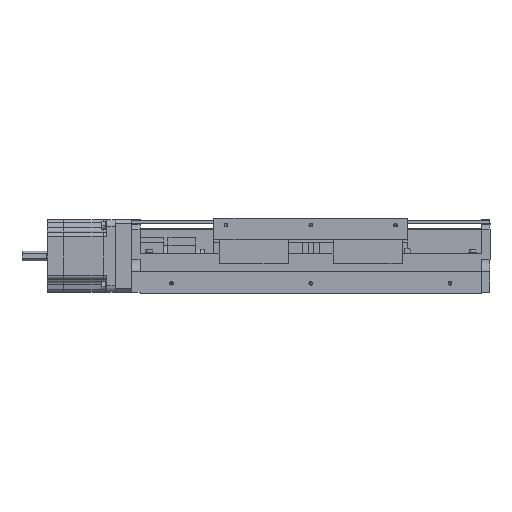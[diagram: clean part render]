
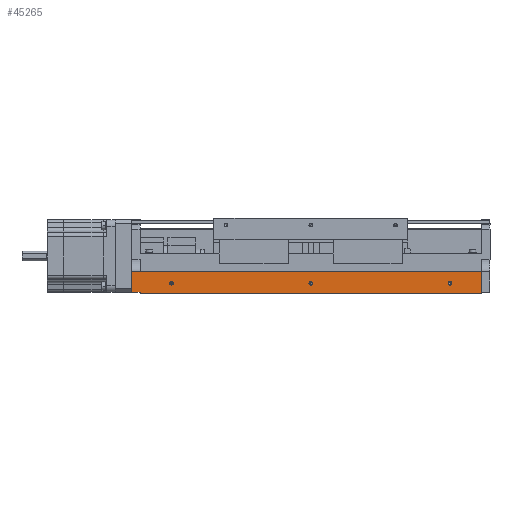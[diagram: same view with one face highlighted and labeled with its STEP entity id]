
A CAD part, front view. The second image highlights one B-rep face of the part: STEP entity #45265.
In plain terms, the highlighted planar face has unit normal (0, -1, 0).
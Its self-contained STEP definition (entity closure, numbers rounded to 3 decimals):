
#618 = EDGE_CURVE ( 'NONE', #62793, #14108, #73816, .T. ) ;
#635 = EDGE_CURVE ( 'NONE', #55769, #14879, #14548, .T. ) ;
#767 = ORIENTED_EDGE ( 'NONE', *, *, #72655, .F. ) ;
#1099 = CARTESIAN_POINT ( 'NONE',  ( 309.099, 117.074, 83. ) ) ;
#1272 = EDGE_CURVE ( 'NONE', #23123, #37660, #20956, .T. ) ;
#1435 = ORIENTED_EDGE ( 'NONE', *, *, #15556, .F. ) ;
#1518 = VERTEX_POINT ( 'NONE', #17436 ) ;
#3348 = VECTOR ( 'NONE', #51131, 1000. ) ;
#3594 = EDGE_CURVE ( 'NONE', #14879, #55769, #74278, .T. ) ;
#3691 = LINE ( 'NONE', #31567, #10242 ) ;
#3930 = CARTESIAN_POINT ( 'NONE',  ( 309.099, 117.074, 83. ) ) ;
#4872 = DIRECTION ( 'NONE',  ( 0., -1., 0. ) ) ;
#5300 = CARTESIAN_POINT ( 'NONE',  ( 309.099, 117.074, 66. ) ) ;
#5737 = ORIENTED_EDGE ( 'NONE', *, *, #15269, .T. ) ;
#6096 = DIRECTION ( 'NONE',  ( 0., 0., -1. ) ) ;
#6927 = DIRECTION ( 'NONE',  ( 0., -1., 0. ) ) ;
#6972 = ORIENTED_EDGE ( 'NONE', *, *, #618, .T. ) ;
#7595 = ORIENTED_EDGE ( 'NONE', *, *, #14692, .F. ) ;
#8270 = AXIS2_PLACEMENT_3D ( 'NONE', #29177, #53253, #23771 ) ;
#8528 = ORIENTED_EDGE ( 'NONE', *, *, #3594, .F. ) ;
#8542 = DIRECTION ( 'NONE',  ( 0., 0., -1. ) ) ;
#9443 = VECTOR ( 'NONE', #15582, 1000. ) ;
#10242 = VECTOR ( 'NONE', #8542, 1000. ) ;
#10573 = CIRCLE ( 'NONE', #54195, 1.5 ) ;
#11043 = VERTEX_POINT ( 'NONE', #56373 ) ;
#12554 = VERTEX_POINT ( 'NONE', #14595 ) ;
#12856 = CARTESIAN_POINT ( 'NONE',  ( 450.099, 117.074, 73.5 ) ) ;
#13401 = EDGE_CURVE ( 'NONE', #41292, #62793, #67020, .T. ) ;
#13482 = DIRECTION ( 'NONE',  ( 0., -1., 0. ) ) ;
#13666 = VECTOR ( 'NONE', #31062, 1000. ) ;
#14108 = VERTEX_POINT ( 'NONE', #5300 ) ;
#14548 = CIRCLE ( 'NONE', #39301, 1.5 ) ;
#14595 = CARTESIAN_POINT ( 'NONE',  ( 335.099, 117.074, 75. ) ) ;
#14692 = EDGE_CURVE ( 'NONE', #1518, #24840, #10573, .T. ) ;
#14879 = VERTEX_POINT ( 'NONE', #49610 ) ;
#15269 = EDGE_CURVE ( 'NONE', #14108, #23123, #33583, .T. ) ;
#15556 = EDGE_CURVE ( 'NONE', #41292, #11043, #22441, .T. ) ;
#15582 = DIRECTION ( 'NONE',  ( 1., 0., 0. ) ) ;
#17436 = CARTESIAN_POINT ( 'NONE',  ( 450.099, 117.074, 72. ) ) ;
#17830 = CARTESIAN_POINT ( 'NONE',  ( 450.099, 117.074, 75. ) ) ;
#19070 = ORIENTED_EDGE ( 'NONE', *, *, #635, .F. ) ;
#20067 = FACE_BOUND ( 'NONE', #23449, .T. ) ;
#20956 = LINE ( 'NONE', #33751, #3348 ) ;
#22441 = LINE ( 'NONE', #3930, #9443 ) ;
#23123 = VERTEX_POINT ( 'NONE', #59232 ) ;
#23449 = EDGE_LOOP ( 'NONE', ( #8528, #19070 ) ) ;
#23695 = CARTESIAN_POINT ( 'NONE',  ( 335.099, 117.074, 73.5 ) ) ;
#23771 = DIRECTION ( 'NONE',  ( 0., 0., -1. ) ) ;
#24840 = VERTEX_POINT ( 'NONE', #17830 ) ;
#25316 = EDGE_LOOP ( 'NONE', ( #47940, #74122 ) ) ;
#28115 = CIRCLE ( 'NONE', #39127, 1.5 ) ;
#28715 = ORIENTED_EDGE ( 'NONE', *, *, #1272, .T. ) ;
#29177 = CARTESIAN_POINT ( 'NONE',  ( 335.099, 117.074, 73.5 ) ) ;
#29364 = DIRECTION ( 'NONE',  ( 0., 0., -1. ) ) ;
#29632 = DIRECTION ( 'NONE',  ( 0., -1., 0. ) ) ;
#29640 = DIRECTION ( 'NONE',  ( 0., -1., 0. ) ) ;
#31062 = DIRECTION ( 'NONE',  ( 1., 0., 0. ) ) ;
#31567 = CARTESIAN_POINT ( 'NONE',  ( 591.099, 117.074, 83. ) ) ;
#33163 = EDGE_CURVE ( 'NONE', #73873, #12554, #58092, .T. ) ;
#33578 = CARTESIAN_POINT ( 'NONE',  ( 450.099, 117.074, 73.5 ) ) ;
#33583 = LINE ( 'NONE', #1099, #47446 ) ;
#33751 = CARTESIAN_POINT ( 'NONE',  ( 309.099, 117.074, 65. ) ) ;
#37660 = VERTEX_POINT ( 'NONE', #43235 ) ;
#39127 = AXIS2_PLACEMENT_3D ( 'NONE', #33578, #4872, #45270 ) ;
#39301 = AXIS2_PLACEMENT_3D ( 'NONE', #66264, #13482, #54641 ) ;
#39360 = PLANE ( 'NONE',  #71398 ) ;
#39670 = CARTESIAN_POINT ( 'NONE',  ( 335.099, 117.074, 72. ) ) ;
#41292 = VERTEX_POINT ( 'NONE', #63953 ) ;
#41401 = FACE_OUTER_BOUND ( 'NONE', #64509, .T. ) ;
#41562 = CARTESIAN_POINT ( 'NONE',  ( 302.099, 117.074, 83. ) ) ;
#41588 = EDGE_CURVE ( 'NONE', #11043, #37660, #3691, .T. ) ;
#43099 = AXIS2_PLACEMENT_3D ( 'NONE', #23695, #29640, #53181 ) ;
#43235 = CARTESIAN_POINT ( 'NONE',  ( 591.099, 117.074, 65. ) ) ;
#45265 = ADVANCED_FACE ( 'NONE', ( #20067, #53409, #70110, #41401 ), #39360, .T. ) ;
#45270 = DIRECTION ( 'NONE',  ( 0., 0., -1. ) ) ;
#45294 = ORIENTED_EDGE ( 'NONE', *, *, #13401, .T. ) ;
#45792 = DIRECTION ( 'NONE',  ( 0., -1., 0. ) ) ;
#47446 = VECTOR ( 'NONE', #59830, 1000. ) ;
#47940 = ORIENTED_EDGE ( 'NONE', *, *, #33163, .F. ) ;
#49259 = CARTESIAN_POINT ( 'NONE',  ( 565.099, 117.074, 75. ) ) ;
#49610 = CARTESIAN_POINT ( 'NONE',  ( 565.099, 117.074, 72. ) ) ;
#51131 = DIRECTION ( 'NONE',  ( 1., 0., 0. ) ) ;
#51559 = EDGE_CURVE ( 'NONE', #12554, #73873, #64156, .T. ) ;
#53181 = DIRECTION ( 'NONE',  ( 0., 0., -1. ) ) ;
#53253 = DIRECTION ( 'NONE',  ( 0., -1., 0. ) ) ;
#53409 = FACE_BOUND ( 'NONE', #54343, .T. ) ;
#54195 = AXIS2_PLACEMENT_3D ( 'NONE', #12856, #6927, #54762 ) ;
#54343 = EDGE_LOOP ( 'NONE', ( #7595, #767 ) ) ;
#54374 = CARTESIAN_POINT ( 'NONE',  ( 305.599, 117.074, 66. ) ) ;
#54641 = DIRECTION ( 'NONE',  ( 0., 0., -1. ) ) ;
#54762 = DIRECTION ( 'NONE',  ( 0., 0., -1. ) ) ;
#55769 = VERTEX_POINT ( 'NONE', #49259 ) ;
#56373 = CARTESIAN_POINT ( 'NONE',  ( 591.099, 117.074, 83. ) ) ;
#56722 = AXIS2_PLACEMENT_3D ( 'NONE', #58831, #29632, #29364 ) ;
#58092 = CIRCLE ( 'NONE', #8270, 1.5 ) ;
#58190 = DIRECTION ( 'NONE',  ( -1., 0., 0. ) ) ;
#58831 = CARTESIAN_POINT ( 'NONE',  ( 565.099, 117.074, 73.5 ) ) ;
#59156 = ORIENTED_EDGE ( 'NONE', *, *, #41588, .F. ) ;
#59232 = CARTESIAN_POINT ( 'NONE',  ( 309.099, 117.074, 65. ) ) ;
#59830 = DIRECTION ( 'NONE',  ( 0., 0., -1. ) ) ;
#62793 = VERTEX_POINT ( 'NONE', #73345 ) ;
#63953 = CARTESIAN_POINT ( 'NONE',  ( 302.099, 117.074, 83. ) ) ;
#64156 = CIRCLE ( 'NONE', #43099, 1.5 ) ;
#64509 = EDGE_LOOP ( 'NONE', ( #59156, #1435, #45294, #6972, #5737, #28715 ) ) ;
#66264 = CARTESIAN_POINT ( 'NONE',  ( 565.099, 117.074, 73.5 ) ) ;
#67020 = LINE ( 'NONE', #41562, #69854 ) ;
#69854 = VECTOR ( 'NONE', #6096, 1000. ) ;
#70110 = FACE_BOUND ( 'NONE', #25316, .T. ) ;
#71398 = AXIS2_PLACEMENT_3D ( 'NONE', #75298, #45792, #58190 ) ;
#72655 = EDGE_CURVE ( 'NONE', #24840, #1518, #28115, .T. ) ;
#73345 = CARTESIAN_POINT ( 'NONE',  ( 302.099, 117.074, 66. ) ) ;
#73816 = LINE ( 'NONE', #54374, #13666 ) ;
#73873 = VERTEX_POINT ( 'NONE', #39670 ) ;
#74122 = ORIENTED_EDGE ( 'NONE', *, *, #51559, .F. ) ;
#74278 = CIRCLE ( 'NONE', #56722, 1.5 ) ;
#75298 = CARTESIAN_POINT ( 'NONE',  ( 309.099, 117.074, 83. ) ) ;
